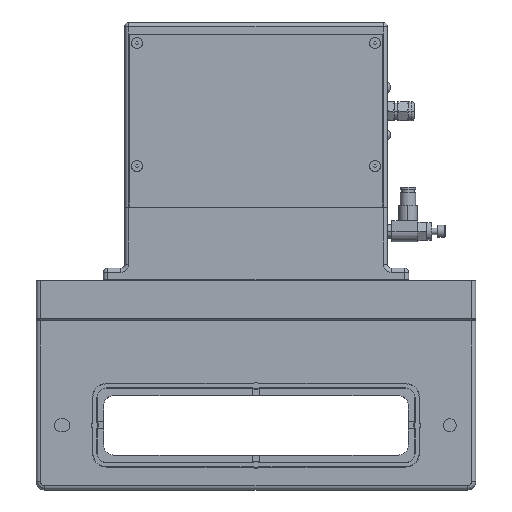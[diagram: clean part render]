
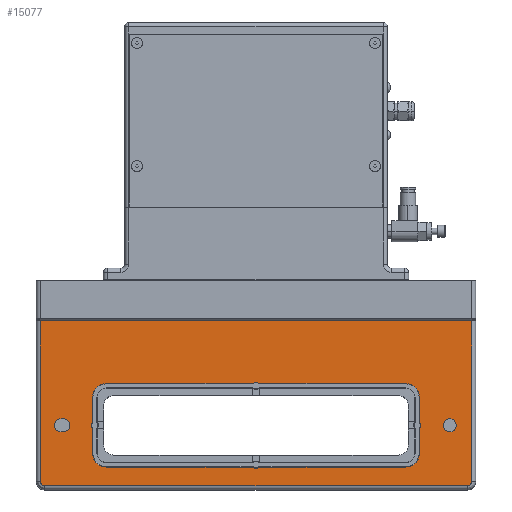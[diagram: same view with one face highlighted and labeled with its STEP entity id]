
A CAD part, top view. The second image highlights one B-rep face of the part: STEP entity #15077.
In plain terms, the highlighted planar face has unit normal (0, 0, 1).
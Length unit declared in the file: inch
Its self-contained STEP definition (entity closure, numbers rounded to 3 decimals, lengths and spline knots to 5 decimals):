
#136=CARTESIAN_POINT('',(5.906,0.,1.181));
#137=DIRECTION('',(0.,0.,-1.));
#138=DIRECTION('',(-1.,0.,0.));
#139=AXIS2_PLACEMENT_3D('',#136,#137,#138);
#141=CARTESIAN_POINT('',(5.906,0.,1.181));
#142=DIRECTION('',(0.,0.,-1.));
#143=DIRECTION('',(1.,0.,0.));
#144=AXIS2_PLACEMENT_3D('',#141,#142,#143);
#146=CARTESIAN_POINT('',(-5.942,0.,1.181));
#147=DIRECTION('',(0.,0.,1.));
#148=DIRECTION('',(0.,1.,0.));
#149=AXIS2_PLACEMENT_3D('',#146,#147,#148);
#151=DIRECTION('',(1.,0.,0.));
#152=VECTOR('',#151,0.072);
#153=CARTESIAN_POINT('',(-5.942,-0.2,1.181));
#154=LINE('',#153,#152);
#155=CARTESIAN_POINT('',(-5.87,0.,1.181));
#156=DIRECTION('',(0.,0.,1.));
#157=DIRECTION('',(0.,-1.,0.));
#158=AXIS2_PLACEMENT_3D('',#155,#156,#157);
#160=DIRECTION('',(-1.,0.,0.));
#161=VECTOR('',#160,0.072);
#162=CARTESIAN_POINT('',(-5.87,0.2,1.181));
#163=LINE('',#162,#161);
#164=DIRECTION('',(-1.,0.,0.));
#165=VECTOR('',#164,13.136);
#166=CARTESIAN_POINT('',(6.568,3.182,1.181));
#167=LINE('',#166,#165);
#168=DIRECTION('',(0.,1.,0.));
#169=VECTOR('',#168,4.9);
#170=CARTESIAN_POINT('',(6.568,-1.718,1.181));
#171=LINE('',#170,#169);
#172=CARTESIAN_POINT('',(6.443,-1.718,1.181));
#173=DIRECTION('',(0.,0.,1.));
#174=DIRECTION('',(0.,-1.,0.));
#175=AXIS2_PLACEMENT_3D('',#172,#173,#174);
#177=DIRECTION('',(1.,0.,0.));
#178=VECTOR('',#177,12.886);
#179=CARTESIAN_POINT('',(-6.443,-1.843,1.181));
#180=LINE('',#179,#178);
#181=CARTESIAN_POINT('',(-6.443,-1.718,1.181));
#182=DIRECTION('',(0.,0.,1.));
#183=DIRECTION('',(-1.,0.,0.));
#184=AXIS2_PLACEMENT_3D('',#181,#182,#183);
#186=DIRECTION('',(0.,-1.,0.));
#187=VECTOR('',#186,4.9);
#188=CARTESIAN_POINT('',(-6.568,3.182,1.181));
#189=LINE('',#188,#187);
#190=CARTESIAN_POINT('',(0.,1.202,1.181));
#191=DIRECTION('',(0.,0.,1.));
#192=DIRECTION('',(0.753,0.658,0.));
#193=AXIS2_PLACEMENT_3D('',#190,#191,#192);
#195=DIRECTION('',(1.,0.,0.));
#196=VECTOR('',#195,4.4765);
#197=CARTESIAN_POINT('',(-4.559,1.274,1.181));
#198=LINE('',#197,#196);
#199=CARTESIAN_POINT('',(-4.559,0.85,1.181));
#200=DIRECTION('',(0.,0.,-1.));
#201=DIRECTION('',(-1.,0.,0.));
#202=AXIS2_PLACEMENT_3D('',#199,#200,#201);
#204=DIRECTION('',(0.,1.,0.));
#205=VECTOR('',#204,0.7675);
#206=CARTESIAN_POINT('',(-4.983,0.0825,1.181));
#207=LINE('',#206,#205);
#208=DIRECTION('',(0.,1.,0.));
#209=VECTOR('',#208,0.7675);
#210=CARTESIAN_POINT('',(-4.983,-0.85,1.181));
#211=LINE('',#210,#209);
#212=CARTESIAN_POINT('',(-4.559,-0.85,1.181));
#213=DIRECTION('',(0.,0.,-1.));
#214=DIRECTION('',(0.,-1.,0.));
#215=AXIS2_PLACEMENT_3D('',#212,#213,#214);
#217=DIRECTION('',(-1.,0.,0.));
#218=VECTOR('',#217,4.4765);
#219=CARTESIAN_POINT('',(-0.0825,-1.274,1.181));
#220=LINE('',#219,#218);
#221=CARTESIAN_POINT('',(0.,-1.202,1.181));
#222=DIRECTION('',(0.,0.,1.));
#223=DIRECTION('',(-0.753,-0.658,0.));
#224=AXIS2_PLACEMENT_3D('',#221,#222,#223);
#226=DIRECTION('',(-1.,0.,0.));
#227=VECTOR('',#226,4.4765);
#228=CARTESIAN_POINT('',(4.559,-1.274,1.181));
#229=LINE('',#228,#227);
#230=CARTESIAN_POINT('',(4.559,-0.85,1.181));
#231=DIRECTION('',(0.,0.,-1.));
#232=DIRECTION('',(1.,0.,0.));
#233=AXIS2_PLACEMENT_3D('',#230,#231,#232);
#235=DIRECTION('',(0.,-1.,0.));
#236=VECTOR('',#235,0.7675);
#237=CARTESIAN_POINT('',(4.983,-0.0825,1.181));
#238=LINE('',#237,#236);
#239=DIRECTION('',(0.,-1.,0.));
#240=VECTOR('',#239,0.7675);
#241=CARTESIAN_POINT('',(4.983,0.85,1.181));
#242=LINE('',#241,#240);
#243=CARTESIAN_POINT('',(4.559,0.85,1.181));
#244=DIRECTION('',(0.,0.,-1.));
#245=DIRECTION('',(0.,1.,0.));
#246=AXIS2_PLACEMENT_3D('',#243,#244,#245);
#248=DIRECTION('',(1.,0.,0.));
#249=VECTOR('',#248,4.4765);
#250=CARTESIAN_POINT('',(0.0825,1.274,1.181));
#251=LINE('',#250,#249);
#10776=CARTESIAN_POINT('',(4.983,0.0825,1.181));
#10787=CARTESIAN_POINT('',(4.983,-0.0825,1.181));
#10809=CARTESIAN_POINT('',(4.911,0.,1.181));
#10810=DIRECTION('',(0.,0.,-1.));
#10811=DIRECTION('',(0.658,0.753,0.));
#10812=AXIS2_PLACEMENT_3D('',#10809,#10810,#10811);
#11290=CARTESIAN_POINT('',(-4.911,0.,1.181));
#11291=DIRECTION('',(0.,0.,-1.));
#11292=DIRECTION('',(-0.658,-0.753,0.));
#11293=AXIS2_PLACEMENT_3D('',#11290,#11291,#11292);
#11370=CARTESIAN_POINT('',(-4.983,0.0825,1.181));
#11408=CARTESIAN_POINT('',(-4.983,-0.0825,1.181));
#12124=CARTESIAN_POINT('',(4.559,1.274,1.181));
#12125=CARTESIAN_POINT('',(4.983,0.85,1.181));
#12126=VERTEX_POINT('',#12124);
#12127=VERTEX_POINT('',#12125);
#12132=CARTESIAN_POINT('',(4.983,-0.85,1.181));
#12133=CARTESIAN_POINT('',(4.559,-1.274,1.181));
#12134=VERTEX_POINT('',#12132);
#12135=VERTEX_POINT('',#12133);
#12140=CARTESIAN_POINT('',(-4.559,-1.274,1.181));
#12141=CARTESIAN_POINT('',(-4.983,-0.85,1.181));
#12142=VERTEX_POINT('',#12140);
#12143=VERTEX_POINT('',#12141);
#12148=CARTESIAN_POINT('',(-4.983,0.85,1.181));
#12149=CARTESIAN_POINT('',(-4.559,1.274,1.181));
#12150=VERTEX_POINT('',#12148);
#12151=VERTEX_POINT('',#12149);
#12160=CARTESIAN_POINT('',(5.706,0.,1.181));
#12161=CARTESIAN_POINT('',(6.106,0.,1.181));
#12162=VERTEX_POINT('',#12160);
#12163=VERTEX_POINT('',#12161);
#12172=CARTESIAN_POINT('',(-5.942,0.2,1.181));
#12173=CARTESIAN_POINT('',(-5.942,-0.2,1.181));
#12174=VERTEX_POINT('',#12172);
#12175=VERTEX_POINT('',#12173);
#12176=CARTESIAN_POINT('',(-5.87,-0.2,1.181));
#12177=VERTEX_POINT('',#12176);
#12178=CARTESIAN_POINT('',(-5.87,0.2,1.181));
#12179=VERTEX_POINT('',#12178);
#12212=CARTESIAN_POINT('',(6.443,-1.843,1.181));
#12213=CARTESIAN_POINT('',(6.568,-1.718,1.181));
#12214=VERTEX_POINT('',#12212);
#12215=VERTEX_POINT('',#12213);
#12220=CARTESIAN_POINT('',(-6.443,-1.843,1.181));
#12221=VERTEX_POINT('',#12220);
#12224=CARTESIAN_POINT('',(-6.568,-1.718,1.181));
#12225=VERTEX_POINT('',#12224);
#12716=CARTESIAN_POINT('',(-6.568,3.182,1.181));
#12718=VERTEX_POINT('',#12716);
#12730=CARTESIAN_POINT('',(6.568,3.182,1.181));
#12731=VERTEX_POINT('',#12730);
#14654=CARTESIAN_POINT('',(0.0825,1.274,1.181));
#14655=CARTESIAN_POINT('',(-0.0825,1.274,1.181));
#14656=VERTEX_POINT('',#14654);
#14657=VERTEX_POINT('',#14655);
#14658=CARTESIAN_POINT('',(-0.0825,-1.274,1.181));
#14659=CARTESIAN_POINT('',(0.0825,-1.274,1.181));
#14660=VERTEX_POINT('',#14658);
#14661=VERTEX_POINT('',#14659);
#14690=VERTEX_POINT('',#10776);
#14691=VERTEX_POINT('',#10787);
#14720=VERTEX_POINT('',#11370);
#14721=VERTEX_POINT('',#11408);
#15008=CARTESIAN_POINT('',(0.,0.,1.181));
#15009=DIRECTION('',(0.,0.,1.));
#15010=DIRECTION('',(1.,0.,0.));
#15011=AXIS2_PLACEMENT_3D('',#15008,#15009,#15010);
#15012=PLANE('',#15011);
#15014=ORIENTED_EDGE('',*,*,#15013,.F.);
#15016=ORIENTED_EDGE('',*,*,#15015,.F.);
#15018=ORIENTED_EDGE('',*,*,#15017,.F.);
#15020=ORIENTED_EDGE('',*,*,#15019,.F.);
#15022=ORIENTED_EDGE('',*,*,#15021,.F.);
#15024=ORIENTED_EDGE('',*,*,#15023,.F.);
#15025=EDGE_LOOP('',(#15014,#15016,#15018,#15020,#15022,#15024));
#15026=FACE_OUTER_BOUND('',#15025,.F.);
#15028=ORIENTED_EDGE('',*,*,#15027,.F.);
#15030=ORIENTED_EDGE('',*,*,#15029,.F.);
#15031=EDGE_LOOP('',(#15028,#15030));
#15032=FACE_BOUND('',#15031,.F.);
#15034=ORIENTED_EDGE('',*,*,#15033,.T.);
#15036=ORIENTED_EDGE('',*,*,#15035,.T.);
#15038=ORIENTED_EDGE('',*,*,#15037,.T.);
#15040=ORIENTED_EDGE('',*,*,#15039,.T.);
#15041=EDGE_LOOP('',(#15034,#15036,#15038,#15040));
#15042=FACE_BOUND('',#15041,.F.);
#15044=ORIENTED_EDGE('',*,*,#15043,.T.);
#15046=ORIENTED_EDGE('',*,*,#15045,.F.);
#15048=ORIENTED_EDGE('',*,*,#15047,.F.);
#15050=ORIENTED_EDGE('',*,*,#15049,.F.);
#15052=ORIENTED_EDGE('',*,*,#15051,.F.);
#15054=ORIENTED_EDGE('',*,*,#15053,.F.);
#15056=ORIENTED_EDGE('',*,*,#15055,.F.);
#15058=ORIENTED_EDGE('',*,*,#15057,.F.);
#15060=ORIENTED_EDGE('',*,*,#15059,.T.);
#15062=ORIENTED_EDGE('',*,*,#15061,.F.);
#15064=ORIENTED_EDGE('',*,*,#15063,.F.);
#15066=ORIENTED_EDGE('',*,*,#15065,.F.);
#15068=ORIENTED_EDGE('',*,*,#15067,.F.);
#15070=ORIENTED_EDGE('',*,*,#15069,.F.);
#15072=ORIENTED_EDGE('',*,*,#15071,.F.);
#15074=ORIENTED_EDGE('',*,*,#15073,.F.);
#15075=EDGE_LOOP('',(#15044,#15046,#15048,#15050,#15052,#15054,#15056,#15058,
#15060,#15062,#15064,#15066,#15068,#15070,#15072,#15074));
#15076=FACE_BOUND('',#15075,.F.);
#140=CIRCLE('',#139,0.2);
#145=CIRCLE('',#144,0.2);
#150=CIRCLE('',#149,0.2);
#159=CIRCLE('',#158,0.2);
#176=CIRCLE('',#175,0.125);
#185=CIRCLE('',#184,0.125);
#194=CIRCLE('',#193,0.1095);
#203=CIRCLE('',#202,0.424);
#216=CIRCLE('',#215,0.424);
#225=CIRCLE('',#224,0.1095);
#234=CIRCLE('',#233,0.424);
#247=CIRCLE('',#246,0.424);
#10813=CIRCLE('',#10812,0.1095);
#11294=CIRCLE('',#11293,0.1095);
#15013=EDGE_CURVE('',#12731,#12718,#167,.T.);
#15015=EDGE_CURVE('',#12215,#12731,#171,.T.);
#15017=EDGE_CURVE('',#12214,#12215,#176,.T.);
#15019=EDGE_CURVE('',#12221,#12214,#180,.T.);
#15021=EDGE_CURVE('',#12225,#12221,#185,.T.);
#15023=EDGE_CURVE('',#12718,#12225,#189,.T.);
#15027=EDGE_CURVE('',#12162,#12163,#140,.T.);
#15029=EDGE_CURVE('',#12163,#12162,#145,.T.);
#15033=EDGE_CURVE('',#12174,#12175,#150,.T.);
#15035=EDGE_CURVE('',#12175,#12177,#154,.T.);
#15037=EDGE_CURVE('',#12177,#12179,#159,.T.);
#15039=EDGE_CURVE('',#12179,#12174,#163,.T.);
#15043=EDGE_CURVE('',#14656,#14657,#194,.T.);
#15045=EDGE_CURVE('',#12151,#14657,#198,.T.);
#15047=EDGE_CURVE('',#12150,#12151,#203,.T.);
#15049=EDGE_CURVE('',#14720,#12150,#207,.T.);
#15051=EDGE_CURVE('',#14721,#14720,#11294,.T.);
#15053=EDGE_CURVE('',#12143,#14721,#211,.T.);
#15055=EDGE_CURVE('',#12142,#12143,#216,.T.);
#15057=EDGE_CURVE('',#14660,#12142,#220,.T.);
#15059=EDGE_CURVE('',#14660,#14661,#225,.T.);
#15061=EDGE_CURVE('',#12135,#14661,#229,.T.);
#15063=EDGE_CURVE('',#12134,#12135,#234,.T.);
#15065=EDGE_CURVE('',#14691,#12134,#238,.T.);
#15067=EDGE_CURVE('',#14690,#14691,#10813,.T.);
#15069=EDGE_CURVE('',#12127,#14690,#242,.T.);
#15071=EDGE_CURVE('',#12126,#12127,#247,.T.);
#15073=EDGE_CURVE('',#14656,#12126,#251,.T.);
#15077=ADVANCED_FACE('',(#15026,#15032,#15042,#15076),#15012,.T.);
